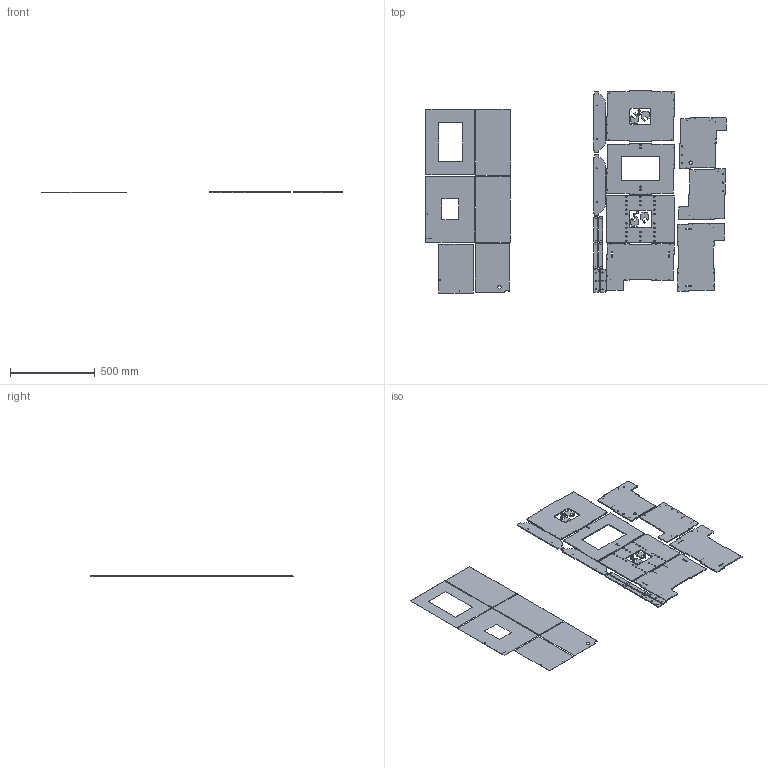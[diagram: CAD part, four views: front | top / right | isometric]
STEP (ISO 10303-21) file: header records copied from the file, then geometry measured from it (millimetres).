
FILE_DESCRIPTION(/* description */ (''),/* implementation_level */ '2;1');
FILE_NAME(/* name */ 'GOOG_CameraITS_modular_base_240312_cut.step',/* time_stamp */ '2024-03-12T15:13:07-07:00',/* author */ (''),/* organization */ (''),/* preprocessor_version */ 'ST-DEVELOPER v20',/* originating_system */ 'Autodesk Translation Framework v12.20.1.177',/* authorisation */ '');
FILE_SCHEMA (('AUTOMOTIVE_DESIGN { 1 0 10303 214 3 1 1 }'));
Length unit declared in the file: millimetre
Products named in the file (29): modular_main_OEM_240201_cut; Panel-Left; Panel-Front; Panel-Right; Panel-Bottom ; Vinyl-Top; Vinyl-Right; Vinyl-Tablet; Vinyl-Left; Vinyl-Bottom; Panel-Phone; Feet1; Feet2; Feet3; Feet4; Vinyl-Front; Panel-Top; Panel-Tablet; LightBracket; AlignmentTab-Left; AlignmentTab-Right; Handle; Handle (1); Handle (2); LightBracket (1); Handle (3); LightBracket (2); LightBracket (3); LightFrame (1)
Assembly tree (29 placements, depth 2):
  modular_main_OEM_240201_cut
    Panel-Left
    Panel-Front
    Panel-Right
    Panel-Bottom 
    Vinyl-Top
    Vinyl-Right
    Vinyl-Tablet
    Vinyl-Left
    Vinyl-Bottom
    Panel-Phone
    Feet1
    Feet2
    Feet3
    Feet4
    Vinyl-Front
    Panel-Top
    Panel-Tablet
    LightBracket
    AlignmentTab-Left
    AlignmentTab-Right
    Handle
    Handle (1)
    Handle (2)
    LightBracket (1)
    Handle (3)
    LightBracket (2)
    LightBracket (3)
    LightFrame (1)  x2
Bounding box: 1768.36 x 1188.52 x 6.3 mm (x, y, z)
Volume: 4223377.6 mm3; surface area: 2346264.3 mm2
Topology: 29 solids, 29 shells, 606 faces, 1570 edges, 1034 vertices
Faces by surface type: plane 367, cylinder 196, cone 43
Full cylindrical faces by diameter (mm): 2 x10, 3 x74, 4 x4, 5.035 x32, 6 x4, 6.35 x6, 12.7 x4, 20 x2
Entity records: 19403 total; most frequent: DIRECTION 3241, CARTESIAN_POINT 3178, ORIENTED_EDGE 3044, EDGE_CURVE 1522, LINE 1097, VECTOR 1097, AXIS2_PLACEMENT_3D 1072, VERTEX_POINT 1006
